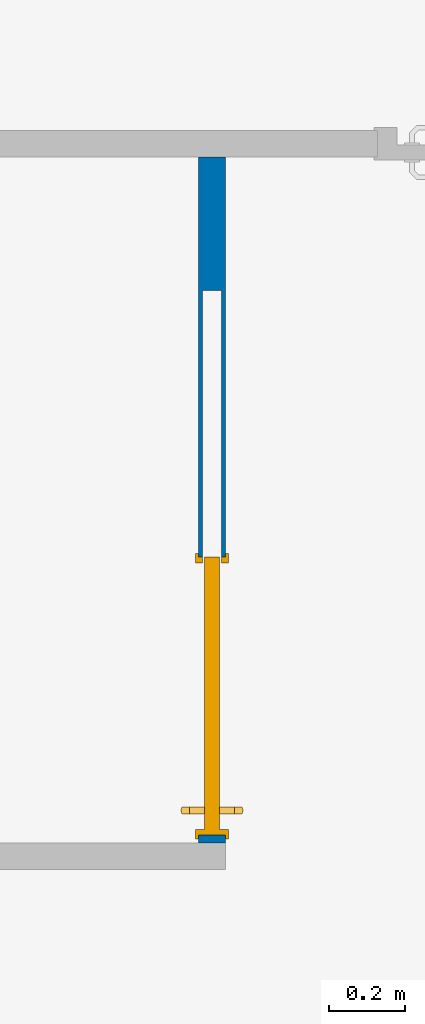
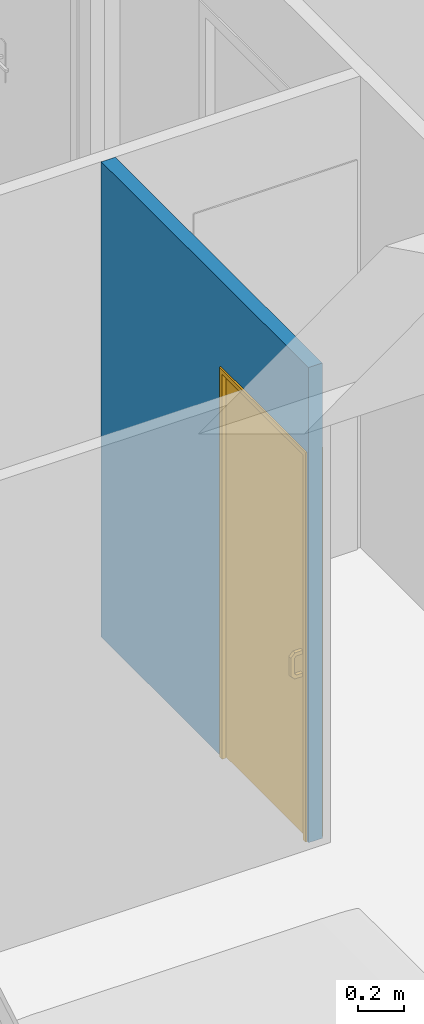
# One storey, part 16 of 50: 1 door, 1 wall, 1 opening.
"""IFC2X3 building model written with IfcOpenShell, lengths in metres."""

from ifc_helpers import new_model, entity, si_unit, converted_unit, derived_unit, direction, frame, frame_2d, origin, place, context, subcontext, project, spatial, rectangle, extrude, faceted_brep, source, transform, mapped, material, material_list, layer, layer_set, layer_usage, type_object, type_shapes, element, fill, save


model = new_model("IFC2X3")

# Units and contexts
model_context = context("Model", 3, precision=1e-05, world=origin(), true_north=direction((6.12303176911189e-17, 1.0)))
context_of_model = context(None, 3, precision=1e-05, world=origin(), true_north=direction((6.12303176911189e-17, 1.0)))
body_context = subcontext(model_context, "Body", "Model", "MODEL_VIEW")
ifc_project = project(units=[si_unit("LENGTHUNIT", "METRE"), si_unit("AREAUNIT", "SQUARE_METRE"), si_unit("VOLUMEUNIT", "CUBIC_METRE"), converted_unit("PLANEANGLEUNIT", "DEGREE", entity("IfcRatioMeasure", 0.0174532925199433), si_unit("PLANEANGLEUNIT", "RADIAN"), dimensions=[0, 0, 0, 0, 0, 0, 0]), si_unit("MASSUNIT", "GRAM", prefix="KILO"), si_unit("TIMEUNIT", "SECOND"), si_unit("FREQUENCYUNIT", "HERTZ"), si_unit("THERMODYNAMICTEMPERATUREUNIT", "DEGREE_CELSIUS"), derived_unit("THERMALTRANSMITTANCEUNIT", [(si_unit("MASSUNIT", "GRAM", prefix="KILO"), 1), (si_unit("THERMODYNAMICTEMPERATUREUNIT", "KELVIN"), -1), (si_unit("TIMEUNIT", "SECOND"), -3)]), derived_unit("VOLUMETRICFLOWRATEUNIT", [(si_unit("LENGTHUNIT", "METRE"), 3), (si_unit("TIMEUNIT", "SECOND"), -1)]), si_unit("ELECTRICCURRENTUNIT", "AMPERE"), si_unit("ELECTRICVOLTAGEUNIT", "VOLT"), si_unit("POWERUNIT", "WATT"), si_unit("FORCEUNIT", "NEWTON", prefix="KILO"), si_unit("ILLUMINANCEUNIT", "LUX"), si_unit("LUMINOUSFLUXUNIT", "LUMEN"), si_unit("LUMINOUSINTENSITYUNIT", "CANDELA"), si_unit("PRESSUREUNIT", "PASCAL")], contexts=[model_context, context_of_model])

# Site, building, storey
site_placement = place(None, origin())
site = spatial("IfcSite", under=ifc_project, at=site_placement, Name="Surface", CompositionType="ELEMENT")
building_placement = place(site_placement, origin())
building = spatial("IfcBuilding", under=site, at=building_placement, CompositionType="ELEMENT")
storey_placement = place(building_placement, frame((0.0, 0.0, 2.82)))
storey = spatial("IfcBuildingStorey", under=building, at=storey_placement, Name="ETAGE", CompositionType="ELEMENT", Elevation=2.82)

# Wall, opening, door
ifc_material_1 = material(Name="Peinture - Blanc")
ifc_layer = layer(ifc_material_1, 0.07)
ifc_layer_set = layer_set([ifc_layer], Name="Mur de base:Int.  Platre 70 mm en blanc")
ifc_layer_usage = layer_usage(ifc_layer_set, "AXIS2", "NEGATIVE", 0.035)
wall_type = type_object("IfcWallType", Name="Mur de base:Int.  Platre 70 mm en blanc", PredefinedType="STANDARD", material=ifc_layer_set)
wall_placement = place(storey_placement, frame((71.4896263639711, 82.5677566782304, 0.0), z_axis=(0.0, 0.0, 1.0), x_axis=(0.0, -1.0, 0.0)))
wall = element("IfcWallStandardCase", 1, at=wall_placement, inside=storey, type_object=wall_type, material=ifc_layer_usage, Name="Mur de base:Int.  Platre 70 mm en blanc", ObjectType="Mur de base:Int.  Platre 70 mm en blanc", context=body_context, shape_type="SweptSolid", body=[
    extrude(rectangle(XDim=1.80000000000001, YDim=0.0700000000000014, at=frame_2d((0.900000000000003, 0.0), x_axis=(-1.0, 0.0))), origin(), (0.0, 0.0, 1.0), 2.52),
])
opening_placement = place(wall_placement, frame((1.77999999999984, -0.185000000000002, 0.0), z_axis=(0.0, 0.0, 1.0), x_axis=(0.0, 1.0, 0.0)))
opening = element("IfcOpeningElement", 2, at=opening_placement, cuts=wall, Name="Mur de base:Int.  Platre 70 mm en blanc", ObjectType="Opening", context=body_context, shape_type="Brep", body=[
    faceted_brep([(0.370000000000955, 0.0, 2.055), (0.0, 0.0, 2.055), (0.0, 0.0, 0.0), (0.370000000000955, 0.0, 0.0), (0.370000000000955, 0.730000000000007, 2.055), (0.370000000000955, 0.730000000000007, 0.0), (0.210000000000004, 0.730000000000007, 2.055), (0.210000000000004, 0.730000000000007, 0.0), (0.210000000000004, 1.43, 2.055), (0.210000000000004, 1.43, 0.0), (0.159999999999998, 1.43, 2.055), (0.159999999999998, 1.43, 0.0), (0.159999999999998, 0.730000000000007, 2.055), (0.159999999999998, 0.730000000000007, 0.0), (0.0, 0.730000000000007, 2.055), (0.0, 0.730000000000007, 0.0)], [[[0, 1, 2, 3]], [[4, 0, 3, 5]], [[6, 4, 5, 7]], [[8, 6, 7, 9]], [[10, 8, 9, 11]], [[12, 10, 11, 13]], [[14, 1, 0, 4, 6, 8, 10, 12]], [[15, 13, 11, 9, 7, 5, 3, 2]], [[1, 14, 15, 2]], [[14, 12, 13, 15]]]),
])
ifc_material_2 = material(Name="Porte - Poignée")
ifc_material_3 = material(Name="Porte - Panneau")
ifc_material_4 = material(Name="Porte - Cadre")
ifc_material_list_1 = material_list([ifc_material_2, ifc_material_3, ifc_material_4])
ifc_material_list_2 = material_list([ifc_material_2, ifc_material_3, ifc_material_4])
door_style = type_object("IfcDoorStyle", Name="0.70m x 2.04m 2", ConstructionType="NOTDEFINED", OperationType="SLIDING_TO_LEFT", ParameterTakesPrecedence=False, Sizeable=False, material=ifc_material_list_2)
shared_shape = source(origin(), body_context, "Body", "Brep", [
    faceted_brep([(1.36963922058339, -0.165000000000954, 0.949316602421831), (1.374, -0.165000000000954, 0.951000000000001), (1.374, -0.165000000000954, 0.969), (1.36963922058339, -0.165000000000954, 0.97068339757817), (1.365, -0.165000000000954, 0.971255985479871), (1.36036077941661, -0.165000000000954, 0.97068339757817), (1.356, -0.165000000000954, 0.969), (1.356, -0.165000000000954, 0.951000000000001), (1.36036077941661, -0.165000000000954, 0.94931660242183), (1.365, -0.165000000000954, 0.94874401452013), (1.36963922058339, -0.16500000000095, 0.829316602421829), (1.374, -0.165000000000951, 0.831), (1.374, -0.165000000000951, 0.848999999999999), (1.36963922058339, -0.16500000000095, 0.850683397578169), (1.365, -0.16500000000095, 0.85125598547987), (1.36036077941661, -0.16500000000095, 0.850683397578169), (1.356, -0.16500000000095, 0.848999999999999), (1.356, -0.16500000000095, 0.831), (1.36036077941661, -0.16500000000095, 0.829316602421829), (1.365, -0.16500000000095, 0.828744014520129), (1.356, -0.133727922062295, 0.848999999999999), (1.356, -0.124000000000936, 0.858727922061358), (1.356, -0.124000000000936, 0.941272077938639), (1.356, -0.133727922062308, 0.951000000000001), (1.356, -0.126272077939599, 0.969), (1.356, -0.106000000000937, 0.948727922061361), (1.356, -0.106000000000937, 0.851272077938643), (1.356, -0.126272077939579, 0.831), (1.36036077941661, -0.125574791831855, 0.97068339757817), (1.365, -0.12533761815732, 0.971255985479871), (1.36963922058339, -0.125574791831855, 0.97068339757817), (1.374, -0.126272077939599, 0.969), (1.374, -0.133727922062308, 0.951000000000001), (1.374, -0.124000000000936, 0.941272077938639), (1.374, -0.124000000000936, 0.858727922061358), (1.374, -0.133727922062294, 0.848999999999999), (1.374, -0.126272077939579, 0.831), (1.374, -0.106000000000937, 0.851272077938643), (1.374, -0.106000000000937, 0.948727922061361), (1.36963922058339, -0.134425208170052, 0.949316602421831), (1.365, -0.134662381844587, 0.94874401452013), (1.36036077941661, -0.134425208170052, 0.94931660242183), (1.36036077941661, -0.104316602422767, 0.949425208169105), (1.365, -0.103744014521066, 0.949662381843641), (1.36963922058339, -0.104316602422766, 0.949425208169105), (1.36963922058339, -0.125683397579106, 0.940574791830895), (1.365, -0.126255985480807, 0.940337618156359), (1.36036077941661, -0.125683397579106, 0.940574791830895), (1.36036077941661, -0.104316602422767, 0.850574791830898), (1.365, -0.103744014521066, 0.850337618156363), (1.36963922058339, -0.104316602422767, 0.850574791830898), (1.36963922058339, -0.125683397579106, 0.859425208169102), (1.365, -0.126255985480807, 0.859662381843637), (1.36036077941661, -0.125683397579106, 0.859425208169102), (1.36036077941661, -0.125574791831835, 0.829316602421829), (1.365, -0.1253376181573, 0.828744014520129), (1.36963922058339, -0.125574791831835, 0.829316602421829), (1.36963922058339, -0.134425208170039, 0.850683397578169), (1.365, -0.134662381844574, 0.85125598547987), (1.36036077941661, -0.134425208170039, 0.850683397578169)], [[[0, 1, 2, 3, 4, 5, 6, 7, 8, 9]], [[10, 11, 12, 13, 14, 15, 16, 17, 18, 19]], [[16, 20, 21, 22, 23, 7, 6, 24, 25, 26, 27, 17]], [[5, 28, 24, 6]], [[4, 29, 28, 5]], [[4, 3, 30, 29]], [[2, 31, 30, 3]], [[1, 32, 33, 34, 35, 12, 11, 36, 37, 38, 31, 2]], [[1, 0, 39, 32]], [[40, 39, 0, 9]], [[7, 23, 41, 8]], [[40, 9, 8, 41]], [[24, 28, 42, 25]], [[29, 43, 42, 28]], [[30, 44, 43, 29]], [[30, 31, 38, 44]], [[32, 39, 45, 33]], [[46, 45, 39, 40]], [[41, 23, 22, 47]], [[47, 46, 40, 41]], [[42, 48, 26, 25]], [[43, 49, 48, 42]], [[44, 50, 49, 43]], [[44, 38, 37, 50]], [[45, 51, 34, 33]], [[51, 45, 46, 52]], [[22, 21, 53, 47]], [[52, 46, 47, 53]], [[26, 48, 54, 27]], [[49, 55, 54, 48]], [[50, 56, 55, 49]], [[50, 37, 36, 56]], [[34, 51, 57, 35]], [[58, 57, 51, 52]], [[53, 21, 20, 59]], [[59, 58, 52, 53]], [[27, 54, 18, 17]], [[19, 18, 54, 55]], [[36, 11, 10, 56]], [[19, 55, 56, 10]], [[57, 13, 12, 35]], [[13, 57, 58, 14]], [[59, 20, 16, 15]], [[15, 14, 58, 59]]]),
    faceted_brep([(1.365, -0.205000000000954, 0.971255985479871), (1.36963922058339, -0.205000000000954, 0.97068339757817), (1.374, -0.205000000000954, 0.969), (1.374, -0.205000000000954, 0.951000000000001), (1.36963922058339, -0.205000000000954, 0.94931660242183), (1.365, -0.205000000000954, 0.94874401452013), (1.36036077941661, -0.205000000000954, 0.94931660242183), (1.356, -0.205000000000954, 0.951000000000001), (1.356, -0.205000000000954, 0.969), (1.36036077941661, -0.205000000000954, 0.97068339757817), (1.36963922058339, -0.205000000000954, 0.850683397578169), (1.374, -0.205000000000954, 0.848999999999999), (1.374, -0.205000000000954, 0.831), (1.36963922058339, -0.205000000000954, 0.829316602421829), (1.365, -0.205000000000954, 0.828744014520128), (1.36036077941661, -0.205000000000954, 0.829316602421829), (1.356, -0.205000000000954, 0.831), (1.356, -0.205000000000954, 0.848999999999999), (1.36036077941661, -0.205000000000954, 0.850683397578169), (1.365, -0.205000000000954, 0.85125598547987), (1.36963922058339, -0.244425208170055, 0.97068339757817), (1.374, -0.243727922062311, 0.969), (1.365, -0.244662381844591, 0.971255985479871), (1.36036077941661, -0.244425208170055, 0.970683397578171), (1.356, -0.243727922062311, 0.969), (1.356, -0.236272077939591, 0.951000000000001), (1.356, -0.246000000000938, 0.941272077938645), (1.356, -0.246000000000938, 0.858727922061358), (1.356, -0.236272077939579, 0.848999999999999), (1.356, -0.243727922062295, 0.831), (1.356, -0.264000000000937, 0.851272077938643), (1.356, -0.264000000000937, 0.948727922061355), (1.36036077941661, -0.235574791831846, 0.94931660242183), (1.365, -0.23533761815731, 0.94874401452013), (1.374, -0.23627207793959, 0.951000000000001), (1.36963922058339, -0.235574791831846, 0.94931660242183), (1.374, -0.236272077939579, 0.848999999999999), (1.374, -0.246000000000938, 0.858727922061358), (1.374, -0.246000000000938, 0.941272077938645), (1.374, -0.264000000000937, 0.948727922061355), (1.374, -0.264000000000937, 0.851272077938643), (1.374, -0.243727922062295, 0.831), (1.36963922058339, -0.265683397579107, 0.949425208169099), (1.365, -0.266255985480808, 0.949662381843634), (1.36036077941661, -0.265683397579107, 0.949425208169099), (1.36036077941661, -0.244316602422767, 0.940574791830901), (1.365, -0.243744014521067, 0.940337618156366), (1.36963922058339, -0.244316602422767, 0.940574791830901), (1.36963922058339, -0.265683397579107, 0.850574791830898), (1.365, -0.266255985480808, 0.850337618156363), (1.36036077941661, -0.265683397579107, 0.850574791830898), (1.36036077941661, -0.244316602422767, 0.859425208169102), (1.365, -0.243744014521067, 0.859662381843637), (1.36963922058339, -0.244316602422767, 0.859425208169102), (1.36963922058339, -0.244425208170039, 0.829316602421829), (1.365, -0.244662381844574, 0.828744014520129), (1.36036077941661, -0.244425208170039, 0.829316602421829), (1.36036077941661, -0.235574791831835, 0.850683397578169), (1.365, -0.2353376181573, 0.85125598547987), (1.36963922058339, -0.235574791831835, 0.850683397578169)], [[[0, 1, 2, 3, 4, 5, 6, 7, 8, 9]], [[10, 11, 12, 13, 14, 15, 16, 17, 18, 19]], [[1, 20, 21, 2]], [[0, 22, 20, 1]], [[0, 9, 23, 22]], [[8, 24, 23, 9]], [[7, 25, 26, 27, 28, 17, 16, 29, 30, 31, 24, 8]], [[7, 6, 32, 25]], [[33, 32, 6, 5]], [[3, 34, 35, 4]], [[33, 5, 4, 35]], [[11, 36, 37, 38, 34, 3, 2, 21, 39, 40, 41, 12]], [[20, 42, 39, 21]], [[22, 43, 42, 20]], [[23, 44, 43, 22]], [[23, 24, 31, 44]], [[25, 32, 45, 26]], [[46, 45, 32, 33]], [[35, 34, 38, 47]], [[47, 46, 33, 35]], [[42, 48, 40, 39]], [[43, 49, 48, 42]], [[44, 50, 49, 43]], [[44, 31, 30, 50]], [[45, 51, 27, 26]], [[51, 45, 46, 52]], [[38, 37, 53, 47]], [[52, 46, 47, 53]], [[48, 54, 41, 40]], [[49, 55, 54, 48]], [[50, 56, 55, 49]], [[50, 30, 29, 56]], [[27, 51, 57, 28]], [[58, 57, 51, 52]], [[53, 37, 36, 59]], [[59, 58, 52, 53]], [[41, 54, 13, 12]], [[14, 13, 54, 55]], [[29, 16, 15, 56]], [[14, 55, 56, 15]], [[57, 18, 17, 28]], [[18, 57, 58, 19]], [[59, 36, 11, 10]], [[10, 19, 58, 59]]]),
    faceted_brep([(1.415, -0.205000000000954, 2.04), (1.415, -0.165000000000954, 2.04), (0.7, -0.165000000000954, 2.04), (0.7, -0.205000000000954, 2.04), (1.415, -0.205000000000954, 0.0), (0.7, -0.205000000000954, 0.0), (0.7, -0.165000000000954, 0.0), (1.415, -0.165000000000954, 0.0)], [[[0, 1, 2, 3]], [[4, 5, 6, 7]], [[1, 0, 4, 7]], [[2, 1, 7, 6]], [[3, 2, 6, 5]], [[0, 3, 5, 4]]]),
    faceted_brep([(0.7, -0.149999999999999, 0.0), (0.69, -0.149999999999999, 0.0), (0.69, -0.142000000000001, 0.0), (0.714999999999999, -0.142000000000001, 0.0), (0.714999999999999, -0.160000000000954, 0.0), (0.7, -0.160000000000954, 0.0), (0.7, -0.149999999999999, 2.055), (1.43, -0.149999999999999, 2.055), (1.43, -0.149999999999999, 0.0), (1.44, -0.149999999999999, 0.0), (1.44, -0.149999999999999, 2.065), (0.69, -0.149999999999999, 2.065), (0.69, -0.142000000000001, 2.065), (1.44, -0.142000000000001, 2.065), (1.44, -0.142000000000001, 0.0), (1.415, -0.142000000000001, 0.0), (1.415, -0.142000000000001, 2.04), (0.714999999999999, -0.142000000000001, 2.04), (0.714999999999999, -0.160000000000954, 2.04), (0.7, -0.160000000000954, 2.04), (0.7, -0.220000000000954, 0.0), (0.7, -0.220000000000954, 2.055), (0.7, -0.210000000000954, 2.04), (0.7, -0.210000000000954, 0.0), (0.69, -0.228000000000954, 0.0), (0.714999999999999, -0.228000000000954, 0.0), (0.714999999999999, -0.228000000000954, 2.04), (1.415, -0.228000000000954, 2.04), (1.415, -0.228000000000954, 0.0), (1.44, -0.228000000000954, 0.0), (1.44, -0.228000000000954, 2.065), (0.69, -0.228000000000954, 2.065), (0.69, -0.220000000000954, 0.0), (0.69, -0.220000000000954, 2.065), (1.44, -0.220000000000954, 2.065), (1.44, -0.220000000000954, 0.0), (1.43, -0.220000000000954, 0.0), (1.43, -0.220000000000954, 2.055), (0.714999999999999, -0.210000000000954, 2.04), (0.714999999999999, -0.210000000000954, 0.0)], [[[0, 1, 2, 3, 4, 5]], [[1, 0, 6, 7, 8, 9, 10, 11]], [[2, 1, 11, 12]], [[3, 2, 12, 13, 14, 15, 16, 17]], [[3, 17, 18, 4]], [[18, 19, 5, 4]], [[20, 21, 6, 0, 5, 19, 22, 23]], [[24, 25, 26, 27, 28, 29, 30, 31]], [[32, 24, 31, 33]], [[20, 32, 33, 34, 35, 36, 37, 21]], [[22, 38, 39, 23]], [[8, 7, 37, 36]], [[9, 8, 36, 35, 29, 28, 15, 14]], [[10, 9, 14, 13]], [[16, 15, 28, 27]], [[30, 29, 35, 34]], [[6, 21, 37, 7]], [[11, 10, 13, 12]], [[17, 16, 27, 26, 38, 22, 19, 18]], [[31, 30, 34, 33]], [[26, 25, 39, 38]], [[25, 24, 32, 20, 23, 39]]]),
])
type_shapes(door_style, [shared_shape])
door_placement = place(opening_placement, frame((0.370000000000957, 1.43000000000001, 0.0), z_axis=(0.0, 0.0, 1.0), x_axis=(0.0, -1.0, 0.0)))
door = element("IfcDoor", 3, at=door_placement, inside=storey, type_object=door_style, material=ifc_material_list_1, Name="Coulissante - Encastrée:0.70m x 2.04m 2", ObjectType="0.70m x 2.04m 2", OverallHeight=2.065, OverallWidth=1.44000000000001, context=body_context, shape_type="MappedRepresentation", body=[
    mapped(shared_shape, transform((0.0, 0.0, 0.0), scale=1.0)),
])
fill(opening, door)

save(model, "model.ifc")
